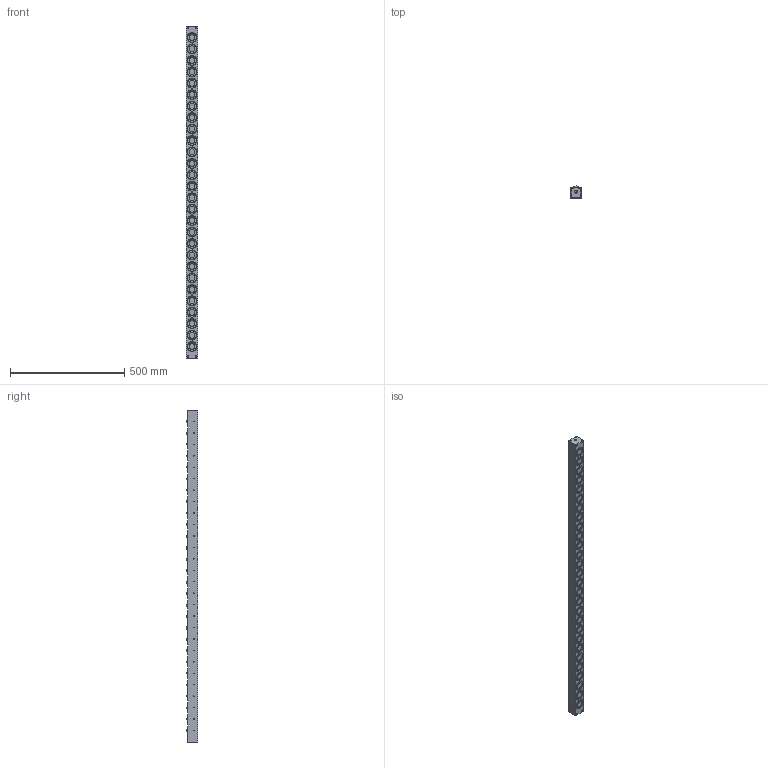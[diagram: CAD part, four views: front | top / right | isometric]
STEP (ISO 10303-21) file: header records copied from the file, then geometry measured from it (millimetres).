
FILE_DESCRIPTION (( 'STEP AP203' ), '1' );
FILE_NAME ('PVL55SW-28.STEP', '2016-02-18T08:43:27', ( '' ), ( '' ), 'SwSTEP 2.0', 'SolidWorks 2013', '' );
FILE_SCHEMA (( 'CONFIG_CONTROL_DESIGN' ));
Length unit declared in the file: millimetre
Products named in the file (1): PVL55SW-28
Bounding box: 49 x 50 x 1450 mm (x, y, z)
Volume: 3076130.6 mm3; surface area: 355313 mm2
Topology: 2 solids, 2 shells, 1308 faces, 3050 edges, 1946 vertices
Faces by surface type: cylinder 806, plane 328, cone 118, sphere 56
Entity records: 37413 total; most frequent: DIRECTION 7336, CARTESIAN_POINT 6189, ORIENTED_EDGE 5868, AXIS2_PLACEMENT_3D 3093, EDGE_CURVE 2934, VERTEX_POINT 1946, CIRCLE 1784, EDGE_LOOP 1632
